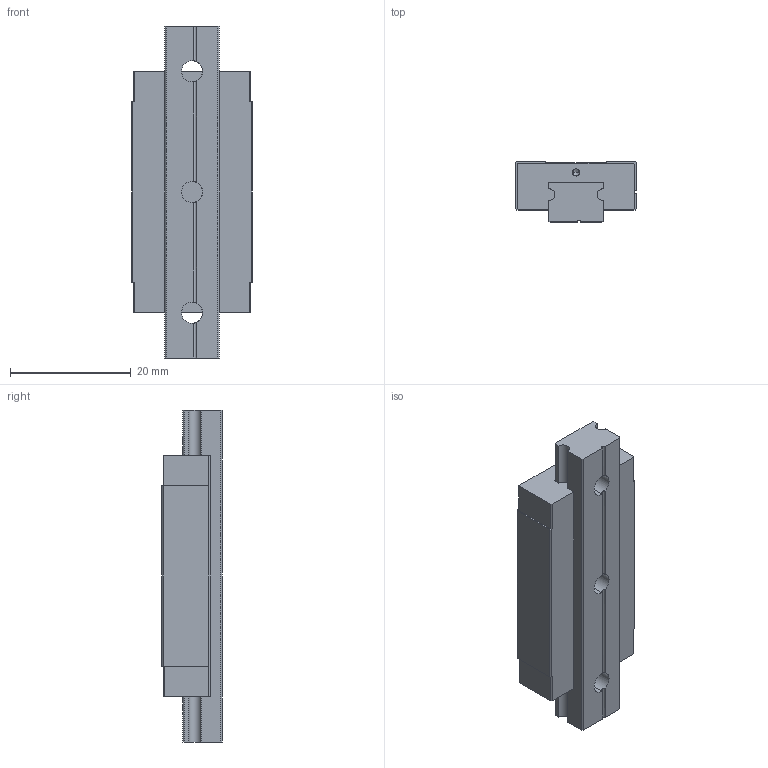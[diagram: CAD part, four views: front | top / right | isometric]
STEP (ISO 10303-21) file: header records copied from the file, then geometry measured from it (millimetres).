
FILE_DESCRIPTION((''),'2;1');
FILE_NAME('MGN9H_ASM','2008-07-11T',('minyao'),(''),'PRO/ENGINEER BY PARAMETRIC TECHNOLOGY CORPORATION, 2004360','PRO/ENGINEER BY PARAMETRIC TECHNOLOGY CORPORATION, 2004360','');
FILE_SCHEMA(('CONFIG_CONTROL_DESIGN'));
Length unit declared in the file: millimetre
Products named in the file (4): MANIFOLD_SOLID_BREP_97; MANIFOLD_SOLID_BREP_98; SAND94F7H974_ASM; MGN9H_ASM
Assembly tree (3 placements, depth 3):
  MGN9H_ASM
    SAND94F7H974_ASM
      MANIFOLD_SOLID_BREP_97
      MANIFOLD_SOLID_BREP_98
Bounding box: 20 x 10 x 55 mm (x, y, z)
Volume: 7280.6 mm3; surface area: 5234.2 mm2
Topology: 2 solids, 2 shells, 99 faces, 278 edges, 177 vertices
Faces by surface type: plane 54, cylinder 33, cone 12
Entity records: 3299 total; most frequent: CARTESIAN_POINT 617, DIRECTION 551, ORIENTED_EDGE 532, EDGE_CURVE 266, VECTOR 185, LINE 185, AXIS2_PLACEMENT_3D 183, VERTEX_POINT 177
